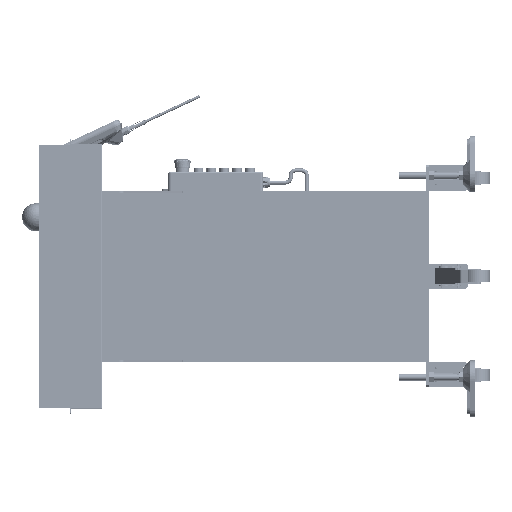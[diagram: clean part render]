
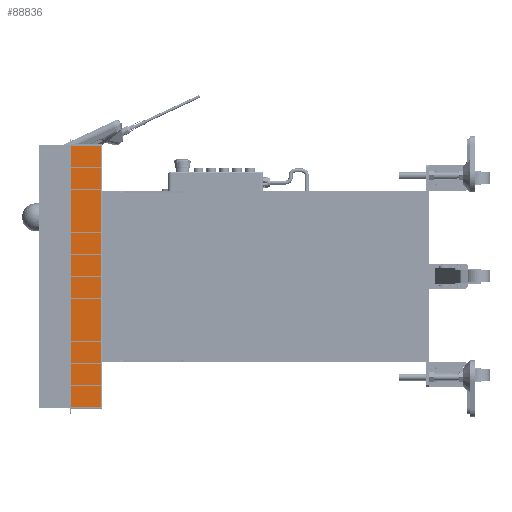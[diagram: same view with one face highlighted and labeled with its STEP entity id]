
A CAD part, left-side view. The second image highlights one B-rep face of the part: STEP entity #88836.
In plain terms, the highlighted planar face has unit normal (-1, 0, 0).
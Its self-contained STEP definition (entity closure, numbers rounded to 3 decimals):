
#1429 = VECTOR ( 'NONE', #433825, 1000. ) ;
#3559 = CARTESIAN_POINT ( 'NONE',  ( -760.272, 380.747, -276.27 ) ) ;
#29241 = LINE ( 'NONE', #3559, #1429 ) ;
#38557 = EDGE_LOOP ( 'NONE', ( #188743, #81877, #353978, #71776 ) ) ;
#50504 = VERTEX_POINT ( 'NONE', #390655 ) ;
#71776 = ORIENTED_EDGE ( 'NONE', *, *, #456574, .T. ) ;
#81877 = ORIENTED_EDGE ( 'NONE', *, *, #245002, .F. ) ;
#84445 = VECTOR ( 'NONE', #201996, 1000. ) ;
#88836 = ADVANCED_FACE ( 'NONE', ( #438216 ), #195437, .F. ) ;
#100668 = VECTOR ( 'NONE', #338926, 1000. ) ;
#105461 = EDGE_CURVE ( 'NONE', #50504, #167627, #256213, .T. ) ;
#138485 = VECTOR ( 'NONE', #187976, 1000. ) ;
#167627 = VERTEX_POINT ( 'NONE', #252556 ) ;
#169014 = CARTESIAN_POINT ( 'NONE',  ( -760.272, 380.747, 375.316 ) ) ;
#187976 = DIRECTION ( 'NONE',  ( 0., 0., 1. ) ) ;
#188743 = ORIENTED_EDGE ( 'NONE', *, *, #105461, .F. ) ;
#189148 = VERTEX_POINT ( 'NONE', #219907 ) ;
#195437 = PLANE ( 'NONE',  #210329 ) ;
#201996 = DIRECTION ( 'NONE',  ( 0., 1., 0. ) ) ;
#210329 = AXIS2_PLACEMENT_3D ( 'NONE', #298665, #241607, #455929 ) ;
#219907 = CARTESIAN_POINT ( 'NONE',  ( -760.272, 381.747, -276.27 ) ) ;
#223255 = EDGE_CURVE ( 'NONE', #242355, #189148, #240354, .T. ) ;
#240354 = LINE ( 'NONE', #302943, #100668 ) ;
#241607 = DIRECTION ( 'NONE',  ( 1., 0., 0. ) ) ;
#242355 = VERTEX_POINT ( 'NONE', #438643 ) ;
#245002 = EDGE_CURVE ( 'NONE', #189148, #50504, #29241, .T. ) ;
#252556 = CARTESIAN_POINT ( 'NONE',  ( -760.272, 455.747, 375.316 ) ) ;
#256213 = LINE ( 'NONE', #439757, #138485 ) ;
#298665 = CARTESIAN_POINT ( 'NONE',  ( -760.272, 380.747, 49.523 ) ) ;
#302943 = CARTESIAN_POINT ( 'NONE',  ( -760.272, 381.747, -278.977 ) ) ;
#338926 = DIRECTION ( 'NONE',  ( 0., 0., -1. ) ) ;
#353978 = ORIENTED_EDGE ( 'NONE', *, *, #223255, .F. ) ;
#386643 = LINE ( 'NONE', #169014, #84445 ) ;
#390655 = CARTESIAN_POINT ( 'NONE',  ( -760.272, 455.747, -276.27 ) ) ;
#433825 = DIRECTION ( 'NONE',  ( 0., 1., 0. ) ) ;
#438216 = FACE_OUTER_BOUND ( 'NONE', #38557, .T. ) ;
#438643 = CARTESIAN_POINT ( 'NONE',  ( -760.272, 381.747, 375.316 ) ) ;
#439757 = CARTESIAN_POINT ( 'NONE',  ( -760.272, 455.747, -276.27 ) ) ;
#455929 = DIRECTION ( 'NONE',  ( 0., 1., 0. ) ) ;
#456574 = EDGE_CURVE ( 'NONE', #242355, #167627, #386643, .T. ) ;
